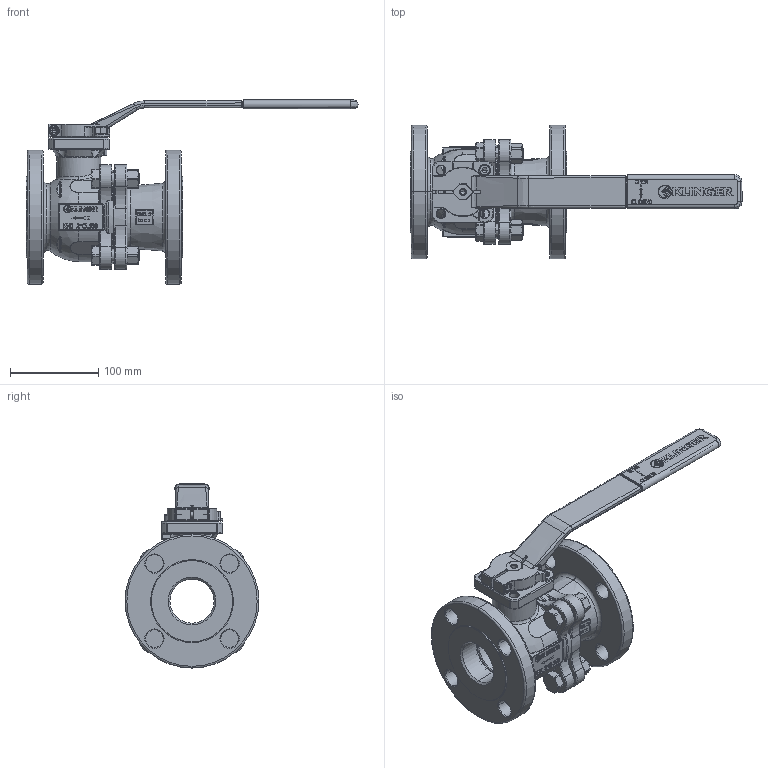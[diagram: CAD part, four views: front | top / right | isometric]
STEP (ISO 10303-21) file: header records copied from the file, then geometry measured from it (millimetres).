
FILE_DESCRIPTION((''),'2;1');
FILE_NAME('KHEFS-2-VFS-2-C150PKK','2015-08-10T',('mahrhauserh'),('RAND'),'PRO/ENGINEER BY PARAMETRIC TECHNOLOGY CORPORATION, 2013410','PRO/ENGINEER BY PARAMETRIC TECHNOLOGY CORPORATION, 2013410','');
FILE_SCHEMA(('CONFIG_CONTROL_DESIGN'));
Products named in the file (1): KHEFS-2-VFS-2-C150PKK
Bounding box: 377 x 152 x 209.05 mm (x, y, z)
Volume: 1477143.9 mm3; surface area: 319133 mm2
Topology: 1 solids, 2 shells, 3295 faces, 8547 edges, 5377 vertices
Faces by surface type: plane 1869, cylinder 530, torus 334, bspline 314, cone 211, sphere 37
Entity records: 131428 total; most frequent: CARTESIAN_POINT 52270, ORIENTED_EDGE 17078, DIRECTION 15703, EDGE_CURVE 8539, VECTOR 5473, LINE 5473, VERTEX_POINT 5377, AXIS2_PLACEMENT_3D 5115
